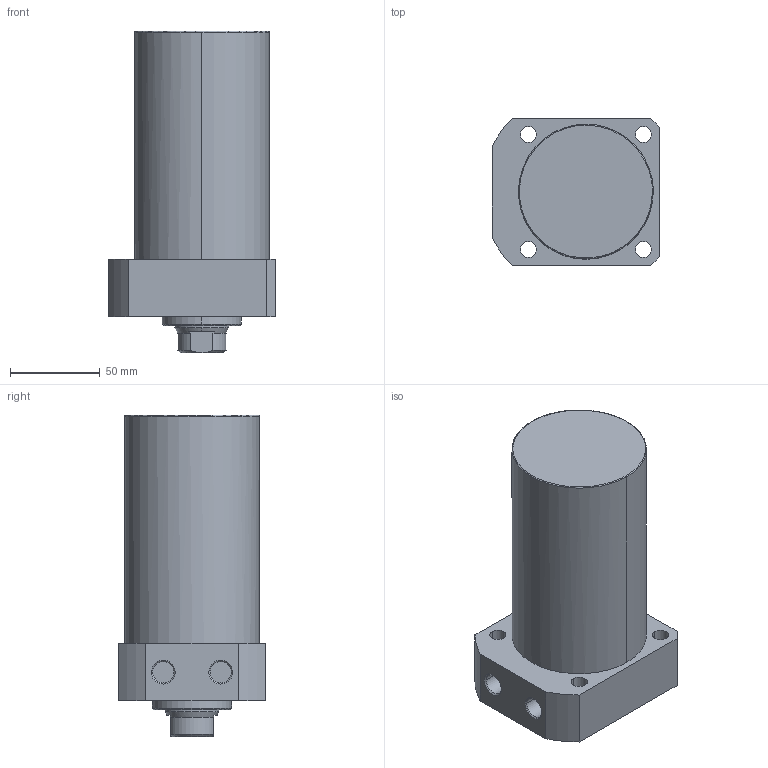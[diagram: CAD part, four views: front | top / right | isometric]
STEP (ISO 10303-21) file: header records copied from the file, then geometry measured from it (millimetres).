
FILE_DESCRIPTION((' '),'2;1');
FILE_NAME( 'TLLR-075CA-090.STEP.stp', '2025-10-24T16:35:05', (' '), ('--- Datakit www.datakit.com---'), ' Datakit CrossCadWare V2024.1 Dec 21 2023', 'Mastercam 2025', ' ');
FILE_SCHEMA(('AUTOMOTIVE_DESIGN { 1 0 10303 214 1 1 1 1 }'));
Length unit declared in the file: millimetre
Products named in the file (1): TLLR-075CA-090
Bounding box: 93 x 82 x 179 mm (x, y, z)
Volume: 796169 mm3; surface area: 63584.9 mm2
Topology: 1 solids, 1 shells, 63 faces, 177 edges, 122 vertices
Faces by surface type: cylinder 28, plane 19, cone 14, torus 2
Entity records: 2168 total; most frequent: CARTESIAN_POINT 405, DIRECTION 400, ORIENTED_EDGE 350, EDGE_CURVE 175, AXIS2_PLACEMENT_3D 169, VERTEX_POINT 122, CIRCLE 105, EDGE_LOOP 79
